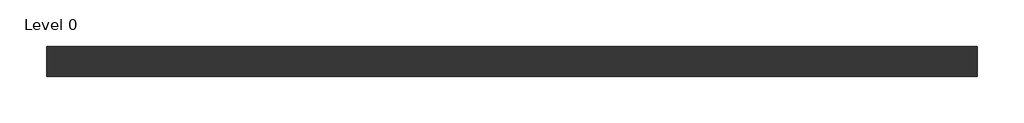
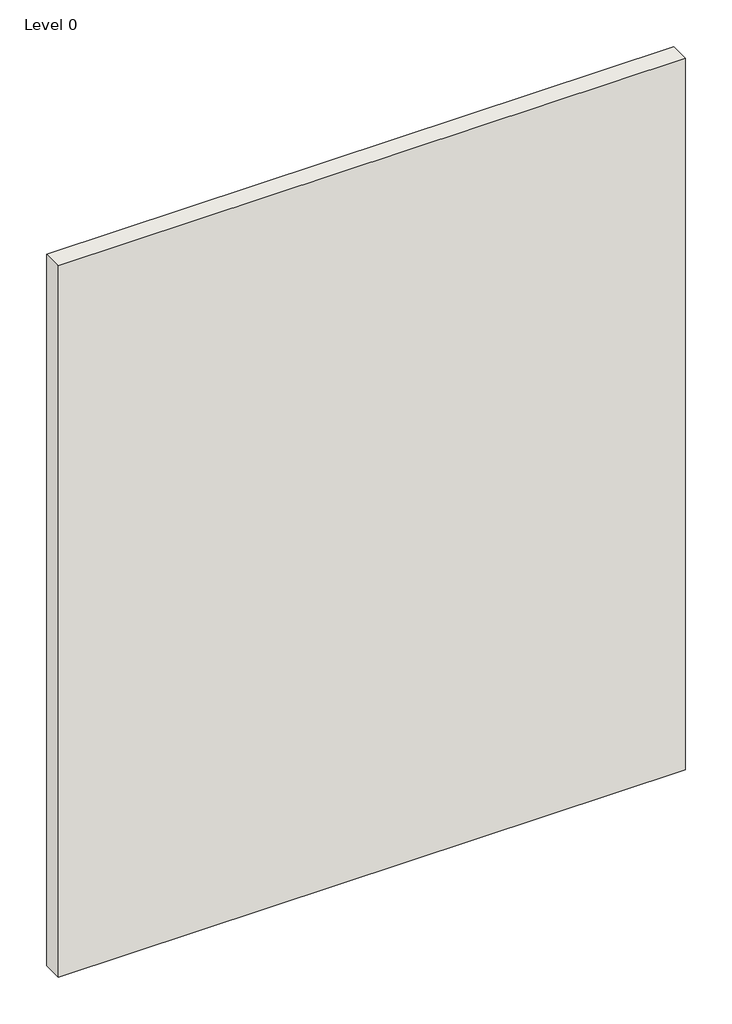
# One storey: 1 wall.
"""IFC4 building model written with IfcOpenShell, lengths in millimetres."""

import ifcopenshell
import ifcopenshell.guid

model = None  # the IFC model being written
_history = None  # IfcOwnerHistory: only IFC2X3 demands one
_inside = {}  # id of a spatial element -> (the spatial element, [elements in it])
_under = {}  # id of a project, library or spatial element -> (it, [spatial elements below it])
_declared = {}  # id of a project -> (the project, [libraries it declares])
_typed = {}  # id of a type object -> (the type object, [elements of that type])
_made_of = {}  # id of a material, layer set ... -> (it, [elements and type objects made of it])


def new_model(schema):
    """Start an empty IFC model of exactly this schema.

    Asked for "IFC4X3", IfcOpenShell would pick the latest addendum, in which some entities
    have other attributes; the version numbers below select the first issue.
    IFC2X3 requires an IfcOwnerHistory on every rooted entity: one is made here for all.
    """
    global model, _history
    if schema == "IFC4X3":
        model = ifcopenshell.file(schema_version=(4, 3, 0, 0))
    else:
        model = ifcopenshell.file(schema=schema)
    _inside.clear()
    _under.clear()
    _declared.clear()
    _typed.clear()
    _made_of.clear()
    _history = None
    if model.schema == "IFC2X3":
        org = make("IfcOrganization", Name="unknown")
        user = make(
            "IfcPersonAndOrganization",
            ThePerson=make("IfcPerson", FamilyName="unknown"),
            TheOrganization=org,
        )
        app = make(
            "IfcApplication",
            ApplicationDeveloper=org,
            Version="unknown",
            ApplicationFullName="unknown",
            ApplicationIdentifier="unknown",
        )
        _history = make(
            "IfcOwnerHistory",
            OwningUser=user,
            OwningApplication=app,
            ChangeAction="ADDED",
            CreationDate=0,
        )
    return model


def make(cls, **values):
    """One entity of the class cls with the attributes given. An attribute that is None is left unset."""
    return model.create_entity(
        cls, **{name: value for name, value in values.items() if value is not None}
    )


def rooted(cls, **values):
    """An entity with a GlobalId (a new one), such as an element, a storey or a relation."""
    return make(cls, GlobalId=ifcopenshell.guid.new(), OwnerHistory=_history, **values)


def si_unit(unit_type, name, prefix=None):
    """IfcSIUnit, for example si_unit("LENGTHUNIT", "METRE", prefix="MILLI")."""
    return make("IfcSIUnit", UnitType=unit_type, Prefix=prefix, Name=name)


def assignment(units):
    """IfcUnitAssignment: the units of a project."""
    return None if units is None else make("IfcUnitAssignment", Units=units)


def point(xyz):
    """IfcCartesianPoint."""
    return None if xyz is None else make("IfcCartesianPoint", Coordinates=xyz)


def direction(xyz):
    """IfcDirection."""
    return None if xyz is None else make("IfcDirection", DirectionRatios=xyz)


def frame(location, z_axis=None, x_axis=None):
    """IfcAxis2Placement3D, a coordinate frame: its origin and axes. An axis left out is left unset."""
    return make(
        "IfcAxis2Placement3D",
        Location=point(location),
        Axis=direction(z_axis),
        RefDirection=direction(x_axis),
    )


def origin():
    """The frame at (0, 0, 0) with its axes left unset."""
    return frame((0.0, 0.0, 0.0))


def origin_with_axes():
    """The frame at (0, 0, 0) with the z axis (0, 0, 1) and the x axis (1, 0, 0) written out."""
    return frame((0.0, 0.0, 0.0), z_axis=(0.0, 0.0, 1.0), x_axis=(1.0, 0.0, 0.0))


def place(relative_to, where):
    """IfcLocalPlacement: puts the frame where relative to a parent placement (None: the world)."""
    return make(
        "IfcLocalPlacement", PlacementRelTo=relative_to, RelativePlacement=where
    )


def context(
    kind, dimensions, precision=None, world=None, true_north=None, identifier=None
):
    """IfcGeometricRepresentationContext, for example the 3D "Model" context."""
    return make(
        "IfcGeometricRepresentationContext",
        ContextIdentifier=identifier,
        ContextType=kind,
        CoordinateSpaceDimension=dimensions,
        Precision=precision,
        WorldCoordinateSystem=world,
        TrueNorth=true_north,
    )


def project(units=None, contexts=None):
    """IfcProject with its units and contexts."""
    return rooted(
        "IfcProject",
        Name="project",
        RepresentationContexts=contexts,
        UnitsInContext=assignment(units),
    )


def spatial(cls, under=None, at=None, **own):
    """A site, building, storey or space (cls), placed at a placement, below another one or the project."""
    s = rooted(cls, ObjectPlacement=at, **own)
    if under is not None:
        _under.setdefault(under.id(), (under, []))[1].append(s)
    return s


def polyline(points):
    """IfcPolyline through the points."""
    return make("IfcPolyline", Points=[point(p) for p in points])


def outline(outer, holes=None, kind="AREA"):
    """IfcArbitraryClosedProfileDef: a profile drawn as a closed curve; with holes, ...WithVoids."""
    if holes is None:
        return make("IfcArbitraryClosedProfileDef", ProfileType=kind, OuterCurve=outer)
    return make(
        "IfcArbitraryProfileDefWithVoids",
        ProfileType=kind,
        OuterCurve=outer,
        InnerCurves=holes,
    )


def extrude(swept, where, along, depth):
    """IfcExtrudedAreaSolid: the profile swept, set in the frame where, extruded along a direction by depth."""
    return make(
        "IfcExtrudedAreaSolid",
        SweptArea=swept,
        Position=where,
        ExtrudedDirection=direction(along),
        Depth=depth,
    )


def shape(context_of_items, identifier, shape_type, items):
    """IfcShapeRepresentation: the items that make up one representation, for example the "Body"."""
    return make(
        "IfcShapeRepresentation",
        ContextOfItems=context_of_items,
        RepresentationIdentifier=identifier,
        RepresentationType=shape_type,
        Items=items,
    )


def made_of(thing, what):
    """Note that an element or type object is made of a material, layer set ...; save() writes the relation."""
    if what is not None:
        _made_of.setdefault(what.id(), (what, []))[1].append(thing)
    return thing


def element(
    cls,
    number,
    at=None,
    inside=None,
    cuts=None,
    type_object=None,
    material=None,
    context=None,
    identifier="Body",
    shape_type=None,
    held_by="IfcProductDefinitionShape",
    body=None,
    shapes=None,
    **own,
):
    """One element of the class cls, such as IfcWall. Its Tag is "e" and its number.

    at: its placement. inside: the storey or other place that contains it. cuts: it is an
    opening in that element (IfcRelVoidsElement). A single representation is given by context,
    identifier, shape_type and body (its items); several are given by shapes. held_by: the class
    of the entity that holds the representations. save() writes the other relations.
    """
    e = rooted(cls, Tag="e%d" % number, ObjectPlacement=at, **own)
    if body is not None:
        shapes = [shape(context, identifier, shape_type, body)]
    if shapes is not None:
        e.Representation = make(held_by, Representations=shapes)
    if inside is not None:
        _inside.setdefault(inside.id(), (inside, []))[1].append(e)
    if cuts is not None:
        rooted(
            "IfcRelVoidsElement", RelatingBuildingElement=cuts, RelatedOpeningElement=e
        )
    if type_object is not None:
        _typed.setdefault(type_object.id(), (type_object, []))[1].append(e)
    return made_of(e, material)


def aggregate(whole, parts):
    """IfcRelAggregates: a whole, such as a stair, and the parts it consists of."""
    return rooted("IfcRelAggregates", RelatingObject=whole, RelatedObjects=parts)


def save(model, path):
    """Write the relations noted so far, then the file.

    IfcRelAggregates (storeys below a building ...), IfcRelContainedInSpatialStructure (elements
    in a storey), IfcRelDefinesByType, IfcRelAssociatesMaterial and IfcRelDeclares: one each for
    every whole, place, type object, material and project.
    """
    for whole, parts in _under.values():
        aggregate(whole, parts)
    for where, things in _inside.values():
        rooted(
            "IfcRelContainedInSpatialStructure",
            RelatedElements=things,
            RelatingStructure=where,
        )
    for kind, things in _typed.values():
        rooted("IfcRelDefinesByType", RelatedObjects=things, RelatingType=kind)
    for what, things in _made_of.values():
        rooted("IfcRelAssociatesMaterial", RelatedObjects=things, RelatingMaterial=what)
    for by, libraries in _declared.values():
        rooted("IfcRelDeclares", RelatingContext=by, RelatedDefinitions=libraries)
    model.write(path)


model = new_model("IFC4")

# Units and contexts
model_context = context("Model", 3, world=origin())
ifc_project = project(units=[si_unit("LENGTHUNIT", "METRE", prefix="MILLI")], contexts=[model_context])

# Site, building, storey
site = spatial("IfcSite", under=ifc_project)
building = spatial("IfcBuilding", under=site)
storey = spatial("IfcBuildingStorey", under=building, Name="Level 0", Elevation=0.0)

# Wall
placement = place(None, origin())
element("IfcWall", 1, ObjectType="A206045 - GypWall CLASSIC", at=placement, inside=storey, context=model_context, shape_type="SweptSolid", body=[
    extrude(outline(polyline([(2116.0807354, 545.2205641), (-883.9192646, 545.2205641), (-883.9192646, 642.2205641), (2116.0807354, 642.2205641), (2116.0807354, 545.2205641)])), origin_with_axes(), (0.0, 0.0, 1.0), 3600.0),
])

save(model, "model.ifc")
